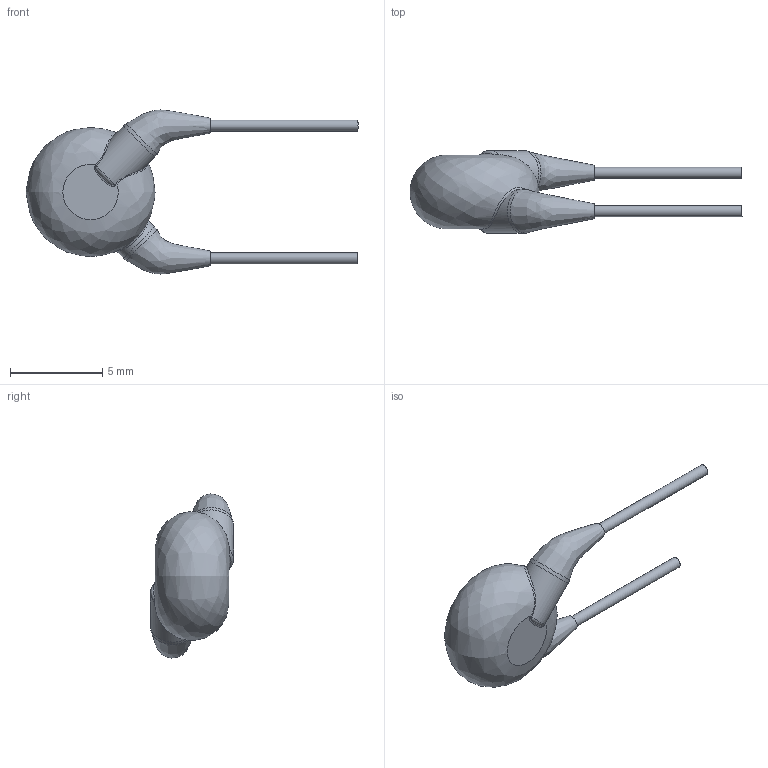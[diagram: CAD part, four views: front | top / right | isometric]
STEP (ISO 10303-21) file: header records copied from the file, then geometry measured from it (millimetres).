
FILE_DESCRIPTION(/* description */ (''),/* implementation_level */ '2;1');
FILE_NAME(/* name */ 'I:\Marketing\M6t1\3D-Models\Zchng-Werk-3\Upload for homepage\Roederstein\VKO\Y5U_300-440\VKO102MCQCD0KR\VKO102MCQCD0KR.stp',/* time_stamp */ '2018-03-15T10:56:20+01:00',/* author */ ('sheinrich'),/* organization */ (''),/* preprocessor_version */ 'ST-DEVELOPER v16.1',/* originating_system */ 'Autodesk Inventor 2016',/* authorisation */ '');
FILE_SCHEMA (('AUTOMOTIVE_DESIGN { 1 0 10303 214 3 1 1 }'));
Length unit declared in the file: centimetre
Products named in the file (1): VKO102MCQCD0KR
Bounding box: 18 x 4.5 x 8.9 mm (x, y, z)
Volume: 151.9 mm3; surface area: 201.6 mm2
Topology: 1 solids, 1 shells, 25 faces, 51 edges, 30 vertices
Faces by surface type: bspline 9, cylinder 8, plane 6, torus 2
Full cylindrical faces by diameter (mm): 0.6 x2, 2.4 x2
Entity records: 1543 total; most frequent: CARTESIAN_POINT 1025, ORIENTED_EDGE 90, DIRECTION 86, EDGE_CURVE 45, AXIS2_PLACEMENT_3D 39, EDGE_LOOP 31, VERTEX_POINT 28, STYLED_ITEM 26
